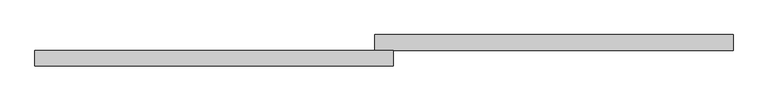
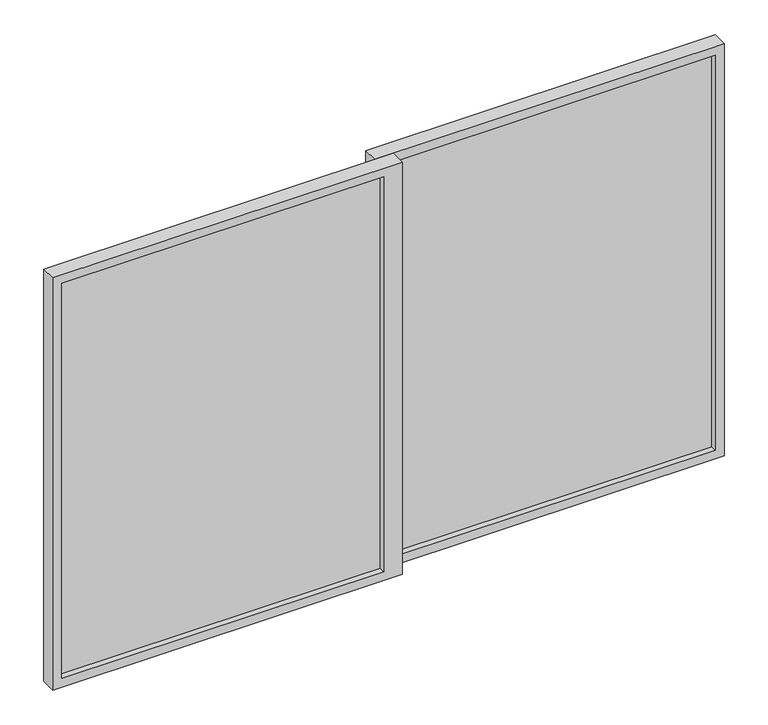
"""IFC4 building model written with IfcOpenShell, lengths in millimetres: plate geometry, 教学楼 - 窗嵌板：双扇推拉窗 : 教学楼 - 窗嵌板：双扇推拉窗."""

from ifc_helpers import new_model, si_unit, frame, origin, place, context, project, spatial, polyline, outline, extrude, source, transform, mapped, element, save


def plate_18a10205(model_context):
    return source(origin(), model_context, "Body", "SweptSolid", [
        extrude(outline(polyline([(-30.0, -20.0), (-30.0, -30.0), (-1082.5, -30.0), (-1082.5, -20.0), (-30.0, -20.0)])), frame((0.0, 0.0, 30.0), z_axis=(0.0, 0.0, 1.0), x_axis=(1.0, 0.0, 0.0)), (0.0, 0.0, 1.0), 1365.0),
        extrude(outline(polyline([(1425.0, -1112.5), (0.0, -1112.5), (0.0, 30.0), (1425.0, 30.0), (1425.0, -1112.5)]), holes=[polyline([(1395.0, -1082.5), (1395.0, -30.0), (30.0, -30.0), (30.0, -1082.5), (1395.0, -1082.5)])]), frame((0.0, -50.0, 0.0), z_axis=(0.0, 1.0, 0.0), x_axis=(0.0, 0.0, 1.0)), (0.0, 0.0, 1.0), 50.0),
        extrude(outline(polyline([(1082.5, 30.0), (1082.5, 20.0), (30.0, 20.0), (30.0, 30.0), (1082.5, 30.0)])), frame((0.0, 0.0, 30.0), z_axis=(0.0, 0.0, 1.0), x_axis=(1.0, 0.0, 0.0)), (0.0, 0.0, 1.0), 1365.0),
        extrude(outline(polyline([(1425.0, -30.0), (0.0, -30.0), (0.0, 1112.5), (1425.0, 1112.5), (1425.0, -30.0)]), holes=[polyline([(1395.0, 30.0), (1395.0, 1082.5), (30.0, 1082.5), (30.0, 30.0), (1395.0, 30.0)])]), frame((0.0, 0.0, 0.0), z_axis=(0.0, 1.0, 0.0), x_axis=(0.0, 0.0, 1.0)), (0.0, 0.0, 1.0), 50.0),
    ])


if __name__ == "__main__":
    model = new_model("IFC4")
    model_context = context("Model", 3, world=origin())
    ifc_project = project(units=[si_unit("LENGTHUNIT", "METRE", prefix="MILLI")], contexts=[model_context])
    site = spatial("IfcSite", under=ifc_project)
    building = spatial("IfcBuilding", under=site)
    placement = place(None, origin())
    plate_shape = plate_18a10205(model_context)
    element("IfcPlate", 1, ObjectType="教学楼 - 窗嵌板：双扇推拉窗 : 教学楼 - 窗嵌板：双扇推拉窗", at=placement, inside=building, context=model_context, shape_type="MappedRepresentation", body=[
        mapped(plate_shape, transform((0.0, 0.0, 0.0), x_axis=(1.0, 0.0, 0.0), y_axis=(0.0, 1.0, 0.0), z_axis=(0.0, 0.0, 1.0))),
    ])
    save(model, "model.ifc")
